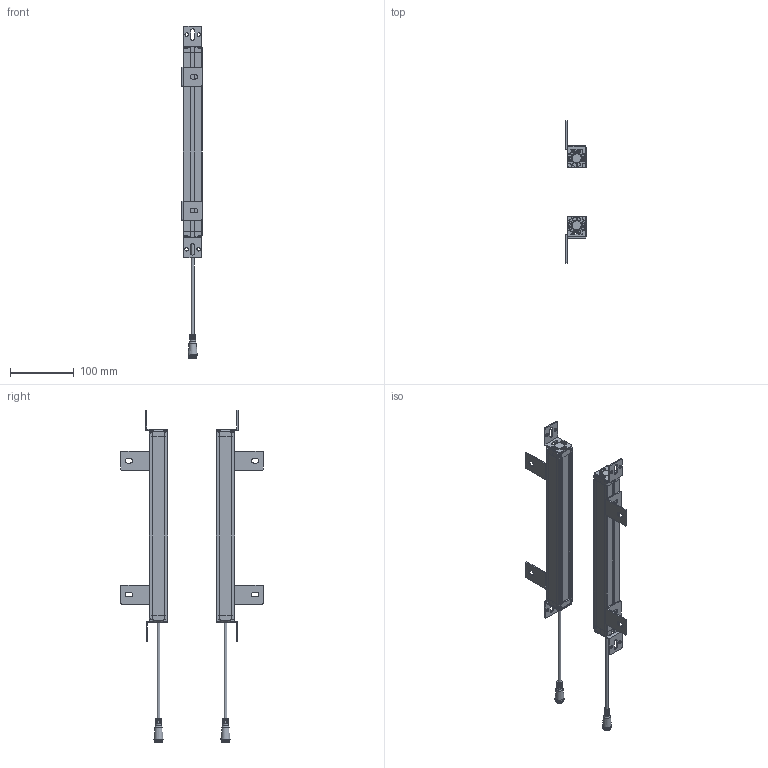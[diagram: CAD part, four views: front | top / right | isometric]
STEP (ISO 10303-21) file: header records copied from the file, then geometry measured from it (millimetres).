
FILE_DESCRIPTION(/* description */ (''),/* implementation_level */ '2;1');
FILE_NAME(/* name */ '2810（29x30）.stp',/* time_stamp */ '2023-04-28T15:39:59+08:00',/* author */ (''),/* organization */ (''),/* preprocessor_version */ 'ST-DEVELOPER v16.7',/* originating_system */ 'SIEMENS PLM Software NX 12.0',/* authorisation */ '');
FILE_SCHEMA (('AUTOMOTIVE_DESIGN { 1 0 10303 214 3 1 1 1 }'));
Products named in the file (1): 7220（29x30）_stp
Bounding box: 32.03 x 223.99 x 521 mm (x, y, z)
Volume: 220431.6 mm3; surface area: 231470.7 mm2
Topology: 34 solids, 34 shells, 1610 faces, 4267 edges, 2771 vertices
Faces by surface type: plane 750, cylinder 648, bspline 88, sphere 36, cone 36, torus 32, extrusion 20
Full cylindrical faces by diameter (mm): 1.533 x6, 4.4 x4, 9 x2, 12.5 x2
Entity records: 56427 total; most frequent: CARTESIAN_POINT 16064, DIRECTION 8330, ORIENTED_EDGE 8324, EDGE_CURVE 4162, AXIS2_PLACEMENT_3D 2918, VERTEX_POINT 2696, VECTOR 2494, LINE 2474
